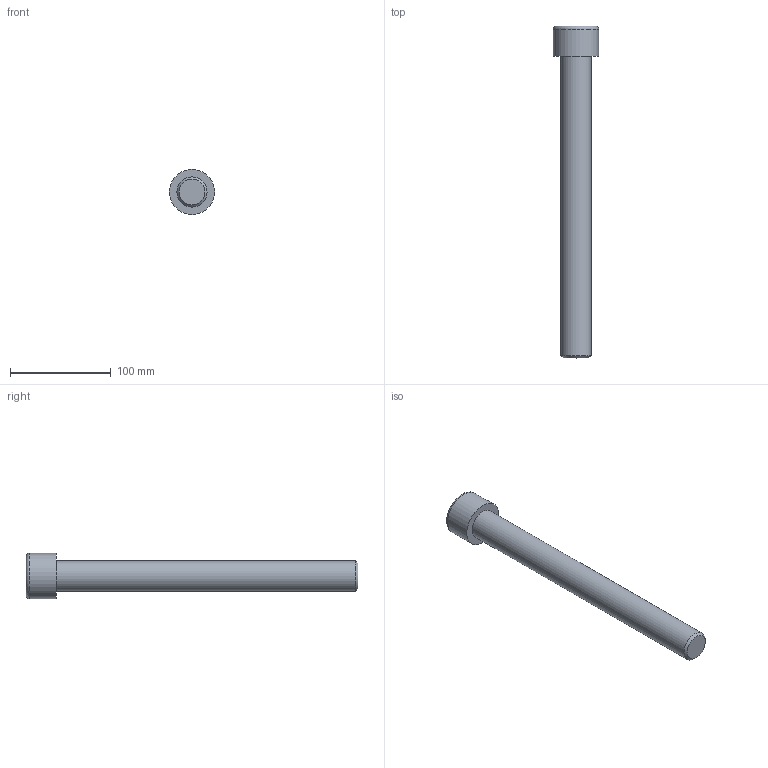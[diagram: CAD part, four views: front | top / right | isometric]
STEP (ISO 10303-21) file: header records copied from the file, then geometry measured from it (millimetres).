
FILE_DESCRIPTION(/* description */ (''),/* implementation_level */ '2;1');
FILE_NAME(/* name */ 'C:\Users\D\Documents\Inventor\各種小物\JIS\JIS B 1176 六角穴付きボルト\M30x300.stp',/* time_stamp */ '2022-05-09T19:01:37+09:00',/* author */ ('D'),/* organization */ (''),/* preprocessor_version */ 'ST-DEVELOPER v18',/* originating_system */ 'Autodesk Inventor 2020',/* authorisation */ '');
FILE_SCHEMA (('AUTOMOTIVE_DESIGN { 1 0 10303 214 3 1 1 }'));
Length unit declared in the file: millimetre
Products named in the file (1): M1.6x2.5
Bounding box: 45 x 330 x 45 mm (x, y, z)
Volume: 251596.2 mm3; surface area: 36680.9 mm2
Topology: 1 solids, 1 shells, 14 faces, 33 edges, 22 vertices
Faces by surface type: plane 9, cone 2, cylinder 2, torus 1
Full cylindrical faces by diameter (mm): 30 x1, 45 x1
Entity records: 435 total; most frequent: CARTESIAN_POINT 83, ORIENTED_EDGE 64, DIRECTION 64, EDGE_CURVE 32, AXIS2_PLACEMENT_3D 24, VERTEX_POINT 22, EDGE_LOOP 16, LINE 16
